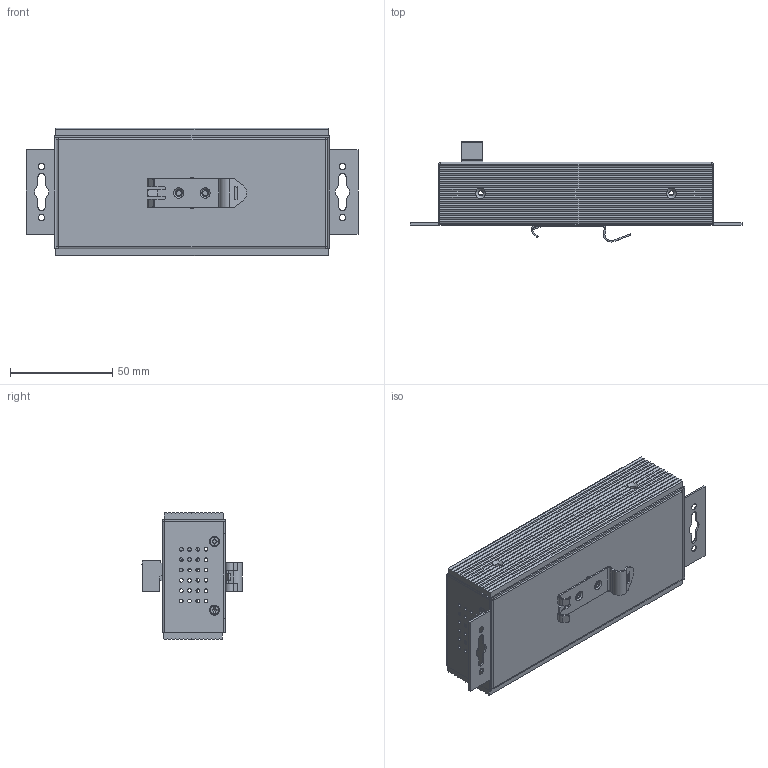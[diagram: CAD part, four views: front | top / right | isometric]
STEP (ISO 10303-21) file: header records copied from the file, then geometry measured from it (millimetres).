
FILE_DESCRIPTION(/* description */ (''),/* implementation_level */ '2;1');
FILE_NAME(/* name */ 'CG-G14PHHT_Model3D_JWV1.step',/* time_stamp */ '2023-04-10T12:10:05-04:00',/* author */ (''),/* organization */ (''),/* preprocessor_version */ 'ST-DEVELOPER v19.2',/* originating_system */ 'Autodesk Translation Framework v11.17.0.187',/* authorisation */ '');
FILE_SCHEMA (('AUTOMOTIVE_DESIGN { 1 0 10303 214 3 1 1 }'));
Products named in the file (5): (Unsaved); DINRCLP3X; Connector green phoenix 2pines male 5.08 v6; Component36; Component37
Assembly tree (5 placements, depth 2):
  (Unsaved)
    DINRCLP3X
    Connector green phoenix 2pines male 5.08 v6
    Component36  x2
    Component37
Bounding box: 162.2 x 48.88 x 62.3 mm (x, y, z)
Volume: 72363.6 mm3; surface area: 98793.1 mm2
Topology: 10 solids, 18 shells, 4035 faces, 11736 edges, 7629 vertices
Faces by surface type: plane 2889, cylinder 1023, cone 74, bspline 31, sphere 18
Full cylindrical faces by diameter (mm): 1.6 x2, 1.8 x48, 2.02 x32, 2.323 x12, 2.45 x2, 2.5 x8, 2.529 x12, 2.55 x4, 2.845 x36, 3 x18, 3.556 x4, 3.86 x2, 4.191 x4
Entity records: 141675 total; most frequent: CARTESIAN_POINT 34480, ORIENTED_EDGE 23166, DIRECTION 21201, EDGE_CURVE 11583, LINE 9167, VECTOR 9167, VERTEX_POINT 7539, AXIS2_PLACEMENT_3D 6017
